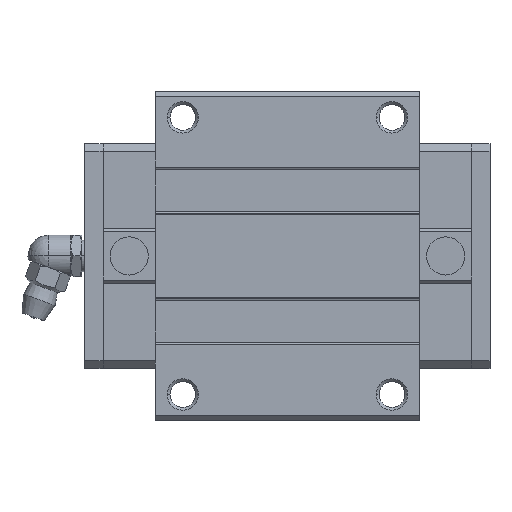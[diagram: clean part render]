
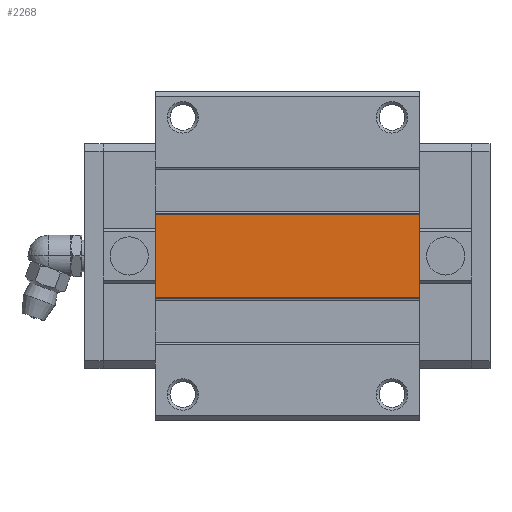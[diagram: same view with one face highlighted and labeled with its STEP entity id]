
A CAD part, top view. The second image highlights one B-rep face of the part: STEP entity #2268.
In plain terms, the highlighted planar face has unit normal (0, 0, 1).
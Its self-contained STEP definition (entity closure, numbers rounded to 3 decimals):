
#2207=CARTESIAN_POINT('POINT2074',(64.,-8.,
   25.4));
#2208=VERTEX_POINT('VERTEX2074',#2207);
#2215=CARTESIAN_POINT('POINT2075',(13.5,-8.,
   25.4));
#2216=VERTEX_POINT('VERTEX2075',#2215);
#2217=CARTESIAN_POINT('POS3406',(13.5,-8.,
   25.4));
#2218=DIRECTION('DIR4954',(1.,0.,0.));
#2219=VECTOR('VEC1858',#2218,1.);
#2220=LINE('STRAIGHT1858',#2217,#2219);
#2221=EDGE_CURVE('EDGE3173',#2216,#2208,#2220,.T.);
#2238=CARTESIAN_POINT('POINT2076',(64.,8.,25.4));
#2239=VERTEX_POINT('VERTEX2076',#2238);
#2240=CARTESIAN_POINT('POS3409',(64.,-8.,
   25.4));
#2241=DIRECTION('DIR4958',(0.,1.,0.));
#2242=VECTOR('VEC1860',#2241,1.);
#2243=LINE('STRAIGHT1860',#2240,#2242);
#2244=EDGE_CURVE('EDGE3175',#2208,#2239,#2243,.T.);
#2245=ORIENTED_EDGE('COEDGE6284',*,*,#2244,.T.);
#2246=CARTESIAN_POINT('POINT2077',(13.5,8.,25.4));
#2247=VERTEX_POINT('VERTEX2077',#2246);
#2248=CARTESIAN_POINT('POS3410',(13.5,8.,25.4));
#2249=DIRECTION('DIR4959',(1.,0.,0.));
#2250=VECTOR('VEC1861',#2249,1.);
#2251=LINE('STRAIGHT1861',#2248,#2250);
#2252=EDGE_CURVE('EDGE3176',#2247,#2239,#2251,.T.);
#2253=ORIENTED_EDGE('COEDGE6285',*,*,#2252,.F.);
#2254=CARTESIAN_POINT('POS3411',(13.5,-8.,
   25.4));
#2255=DIRECTION('DIR4960',(0.,1.,0.));
#2256=VECTOR('VEC1862',#2255,1.);
#2257=LINE('STRAIGHT1862',#2254,#2256);
#2258=EDGE_CURVE('EDGE3177',#2216,#2247,#2257,.T.);
#2259=ORIENTED_EDGE('COEDGE6286',*,*,#2258,.F.);
#2260=ORIENTED_EDGE('COEDGE6287',*,*,#2221,.T.);
#2261=EDGE_LOOP('NONE',(#2245,#2253,#2259,#2260));
#2262=FACE_BOUND('LOOP1',#2261,.T.);
#2263=CARTESIAN_POINT('POS3412',(13.5,-8.,
   25.4));
#2264=DIRECTION('DIR4961',(0.,0.,1.));
#2265=DIRECTION('DIR4962',(1.,0.,0.));
#2266=AXIS2_PLACEMENT_3D('AXIS1550',#2263,#2264,#2265);
#2267=PLANE('PLANE596',#2266);
#2268=ADVANCED_FACE('FACE1208',(#2262),#2267,.T.);
